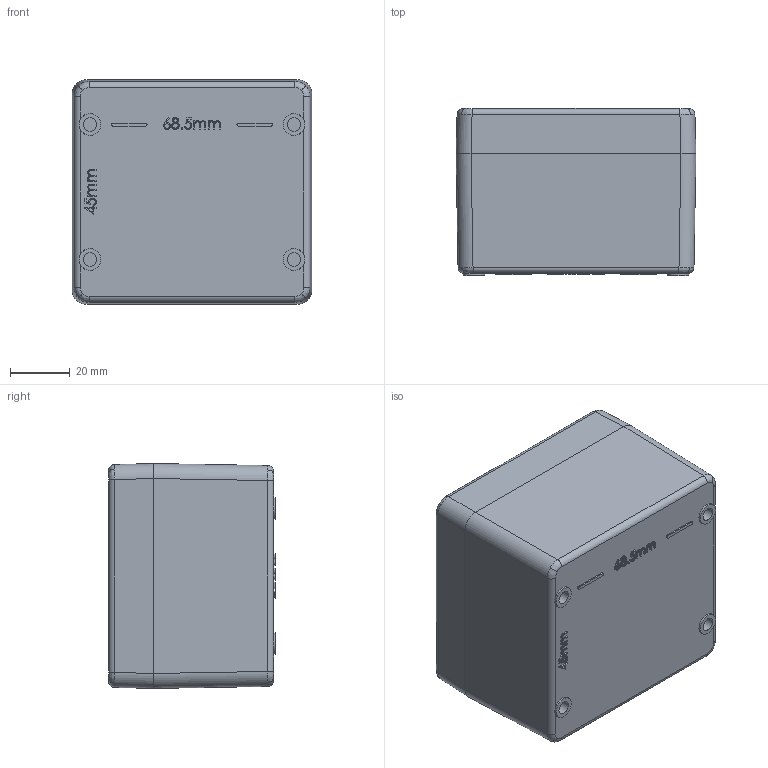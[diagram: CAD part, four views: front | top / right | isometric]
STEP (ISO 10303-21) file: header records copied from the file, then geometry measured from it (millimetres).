
FILE_DESCRIPTION (( 'STEP AP203' ), '1' );
FILE_NAME ('BPG1.STEP', '2014-06-13T09:01:45', ( '' ), ( '' ), 'SwSTEP 2.0', 'SolidWorks 2014', '' );
FILE_SCHEMA (( 'CONFIG_CONTROL_DESIGN' ));
Length unit declared in the file: millimetre
Products named in the file (3): BPG1 Base; BPG1 Lid; BPG1
Assembly tree (2 placements, depth 2):
  BPG1
    BPG1 Base
    BPG1 Lid
Bounding box: 80 x 55.6 x 75 mm (x, y, z)
Volume: 124239.4 mm3; surface area: 60130.7 mm2
Topology: 2 solids, 2 shells, 489 faces, 1290 edges, 818 vertices
Faces by surface type: plane 191, cylinder 168, bspline 112, sphere 18
Entity records: 20004 total; most frequent: CARTESIAN_POINT 8745, ORIENTED_EDGE 2544, DIRECTION 1898, EDGE_CURVE 1272, VERTEX_POINT 818, VECTOR 698, LINE 698, AXIS2_PLACEMENT_3D 600
